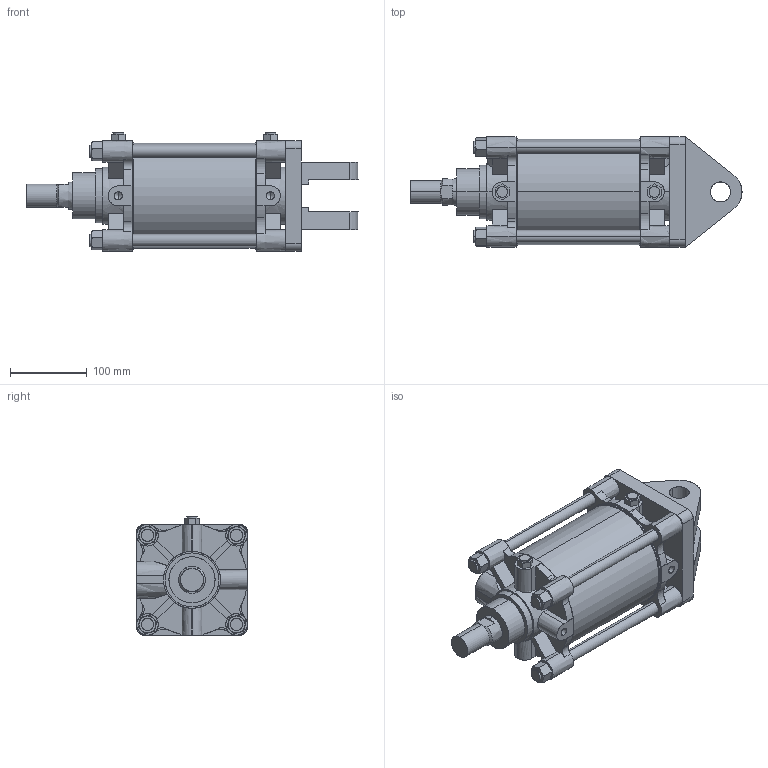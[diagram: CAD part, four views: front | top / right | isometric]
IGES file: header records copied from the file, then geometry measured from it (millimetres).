
Start section: SolidWorks IGES file using analytic representation for surfaces
Global section: file name: C:\Users\Toshiba\Desktop\A##2-125#-100-W.IGS; native system: SolidWorks 2014; preprocessor: SolidWorks 2014; author: Toshiba; date: 160331.145205; units: millimetre
Bounding box: 432 x 144 x 154 mm (x, y, z)
Surface area: 430466.4 mm2 (no closed solid volume)
Topology: 0 solids, 0 shells, 365 faces, 6800 edges, 6788 vertices
Faces by surface type: bspline 197, revolution 168
